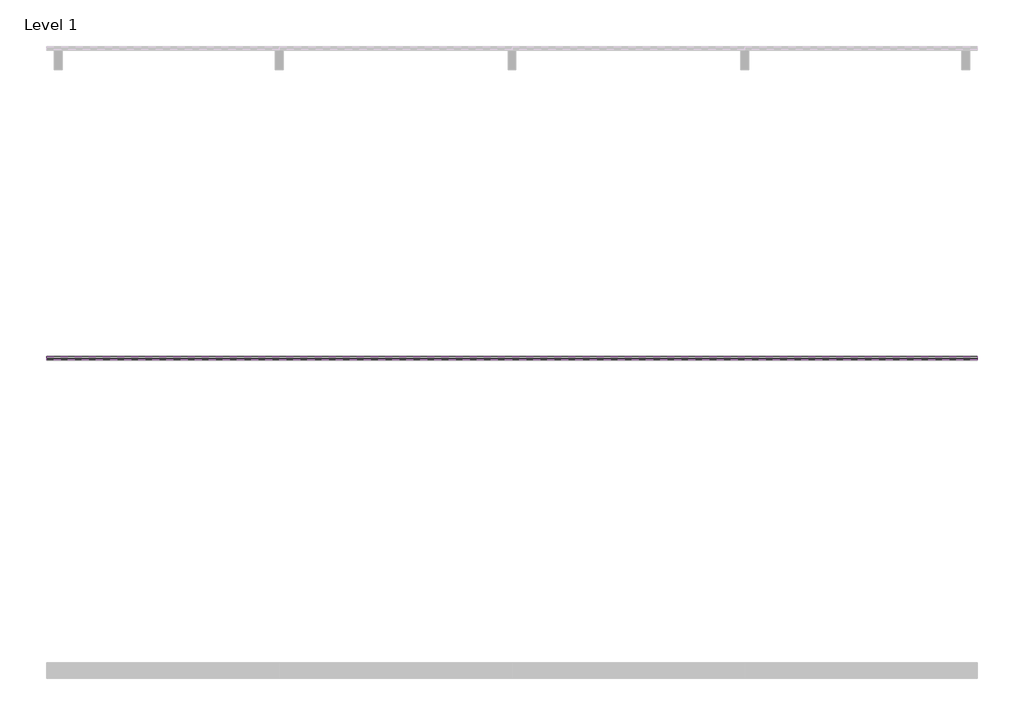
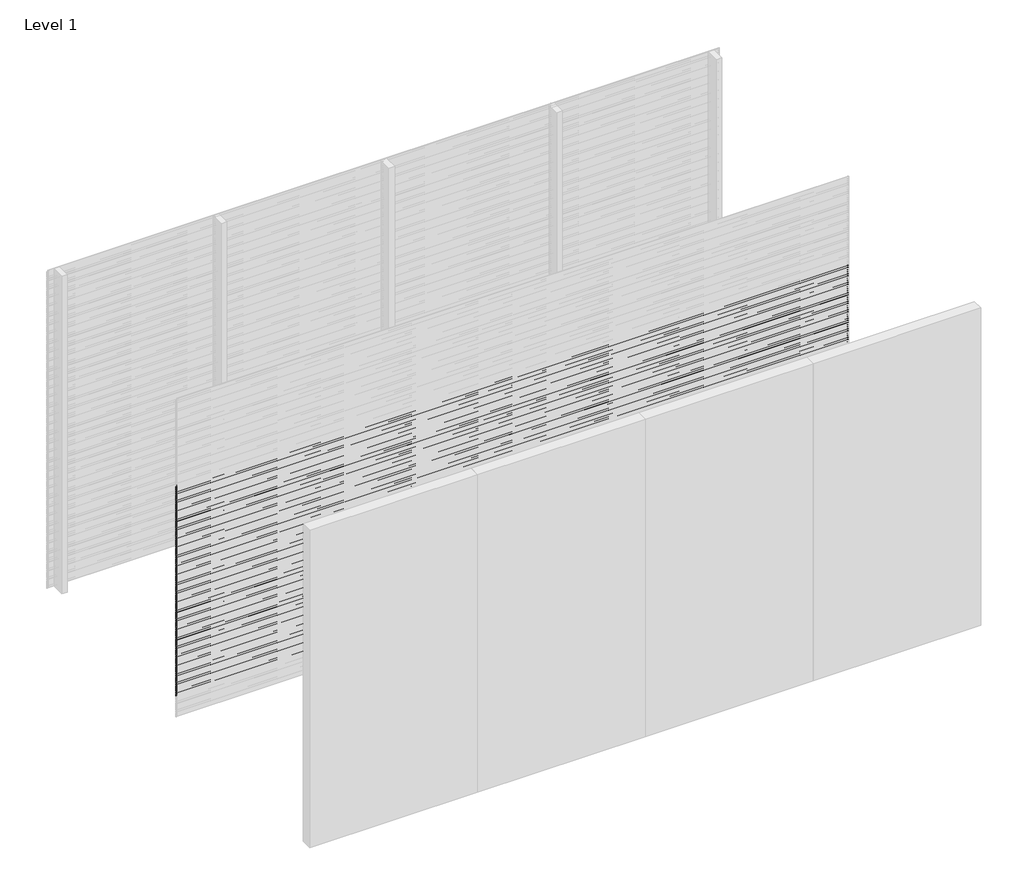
# One storey, part 2 of 31: 99 proxies.
"""IFC4 building model written with IfcOpenShell, lengths in millimetres."""

from ifc_helpers import new_model, si_unit, frame, origin, place, context, project, spatial, polyline, outline, extrude, element, save

model = new_model("IFC4")

# Units and contexts
model_context = context("Model", 3, world=origin())
ifc_project = project(units=[si_unit("LENGTHUNIT", "METRE", prefix="MILLI")], contexts=[model_context])

# Site, building, storey
site = spatial("IfcSite", under=ifc_project)
building = spatial("IfcBuilding", under=site)
storey = spatial("IfcBuildingStorey", under=building, Name="Level 1", Elevation=0.0)

# Proxies
placement = place(None, origin())
element("IfcBuildingElementProxy", 1, Name="Wall Sweeps", at=placement, inside=storey, context=model_context, shape_type="SweptSolid", body=[
    extrude(outline(polyline([(-19995.0, 2180.0), (-19995.0, 2168.942893), (-19976.0, 2153.0), (-19976.0, 2140.0), (-19997.0, 2157.6210923), (-19997.0, 2180.0), (-19995.0, 2180.0)])), frame((0.0, 0.0, 0.0), z_axis=(1.0, 0.0, 0.0), x_axis=(0.0, 1.0, 0.0)), (0.0, 0.0, 1.0), 6000.0),
])
element("IfcBuildingElementProxy", 2, Name="Wall Sweeps", at=placement, inside=storey, context=model_context, shape_type="SweptSolid", body=[
    extrude(outline(polyline([(-19995.0, 2160.0), (-19995.0, 2148.942893), (-19976.0, 2133.0), (-19976.0, 2120.0), (-19997.0, 2137.6210923), (-19997.0, 2160.0), (-19995.0, 2160.0)])), frame((0.0, 0.0, 0.0), z_axis=(1.0, 0.0, 0.0), x_axis=(0.0, 1.0, 0.0)), (0.0, 0.0, 1.0), 6000.0),
])
element("IfcBuildingElementProxy", 3, Name="Wall Sweeps", at=placement, inside=storey, context=model_context, shape_type="SweptSolid", body=[
    extrude(outline(polyline([(-19995.0, 2140.0), (-19995.0, 2128.942893), (-19976.0, 2113.0), (-19976.0, 2100.0), (-19997.0, 2117.6210923), (-19997.0, 2140.0), (-19995.0, 2140.0)])), frame((0.0, 0.0, 0.0), z_axis=(1.0, 0.0, 0.0), x_axis=(0.0, 1.0, 0.0)), (0.0, 0.0, 1.0), 6000.0),
])
element("IfcBuildingElementProxy", 4, Name="Wall Sweeps", at=placement, inside=storey, context=model_context, shape_type="SweptSolid", body=[
    extrude(outline(polyline([(-19995.0, 2120.0), (-19995.0, 2108.942893), (-19976.0, 2093.0), (-19976.0, 2080.0), (-19997.0, 2097.6210923), (-19997.0, 2120.0), (-19995.0, 2120.0)])), frame((0.0, 0.0, 0.0), z_axis=(1.0, 0.0, 0.0), x_axis=(0.0, 1.0, 0.0)), (0.0, 0.0, 1.0), 6000.0),
])
element("IfcBuildingElementProxy", 5, Name="Wall Sweeps", at=placement, inside=storey, context=model_context, shape_type="SweptSolid", body=[
    extrude(outline(polyline([(-19995.0, 2100.0), (-19995.0, 2088.942893), (-19976.0, 2073.0), (-19976.0, 2060.0), (-19997.0, 2077.6210923), (-19997.0, 2100.0), (-19995.0, 2100.0)])), frame((0.0, 0.0, 0.0), z_axis=(1.0, 0.0, 0.0), x_axis=(0.0, 1.0, 0.0)), (0.0, 0.0, 1.0), 6000.0),
])
element("IfcBuildingElementProxy", 6, Name="Wall Sweeps", at=placement, inside=storey, context=model_context, shape_type="SweptSolid", body=[
    extrude(outline(polyline([(-19995.0, 2080.0), (-19995.0, 2068.942893), (-19976.0, 2053.0), (-19976.0, 2040.0), (-19997.0, 2057.6210923), (-19997.0, 2080.0), (-19995.0, 2080.0)])), frame((0.0, 0.0, 0.0), z_axis=(1.0, 0.0, 0.0), x_axis=(0.0, 1.0, 0.0)), (0.0, 0.0, 1.0), 6000.0),
])
element("IfcBuildingElementProxy", 7, Name="Wall Sweeps", at=placement, inside=storey, context=model_context, shape_type="SweptSolid", body=[
    extrude(outline(polyline([(-19995.0, 2060.0), (-19995.0, 2048.942893), (-19976.0, 2033.0), (-19976.0, 2020.0), (-19997.0, 2037.6210923), (-19997.0, 2060.0), (-19995.0, 2060.0)])), frame((0.0, 0.0, 0.0), z_axis=(1.0, 0.0, 0.0), x_axis=(0.0, 1.0, 0.0)), (0.0, 0.0, 1.0), 6000.0),
])
element("IfcBuildingElementProxy", 8, Name="Wall Sweeps", at=placement, inside=storey, context=model_context, shape_type="SweptSolid", body=[
    extrude(outline(polyline([(-19995.0, 2040.0), (-19995.0, 2028.942893), (-19976.0, 2013.0), (-19976.0, 2000.0), (-19997.0, 2017.6210923), (-19997.0, 2040.0), (-19995.0, 2040.0)])), frame((0.0, 0.0, 0.0), z_axis=(1.0, 0.0, 0.0), x_axis=(0.0, 1.0, 0.0)), (0.0, 0.0, 1.0), 6000.0),
])
element("IfcBuildingElementProxy", 9, Name="Wall Sweeps", at=placement, inside=storey, context=model_context, shape_type="SweptSolid", body=[
    extrude(outline(polyline([(-19995.0, 2020.0), (-19995.0, 2008.942893), (-19976.0, 1993.0), (-19976.0, 1980.0), (-19997.0, 1997.6210923), (-19997.0, 2020.0), (-19995.0, 2020.0)])), frame((0.0, 0.0, 0.0), z_axis=(1.0, 0.0, 0.0), x_axis=(0.0, 1.0, 0.0)), (0.0, 0.0, 1.0), 6000.0),
])
element("IfcBuildingElementProxy", 10, Name="Wall Sweeps", at=placement, inside=storey, context=model_context, shape_type="SweptSolid", body=[
    extrude(outline(polyline([(-19995.0, 2000.0), (-19995.0, 1988.942893), (-19976.0, 1973.0), (-19976.0, 1960.0), (-19997.0, 1977.6210923), (-19997.0, 2000.0), (-19995.0, 2000.0)])), frame((0.0, 0.0, 0.0), z_axis=(1.0, 0.0, 0.0), x_axis=(0.0, 1.0, 0.0)), (0.0, 0.0, 1.0), 6000.0),
])
element("IfcBuildingElementProxy", 11, Name="Wall Sweeps", at=placement, inside=storey, context=model_context, shape_type="SweptSolid", body=[
    extrude(outline(polyline([(-19995.0, 1980.0), (-19995.0, 1968.942893), (-19976.0, 1953.0), (-19976.0, 1940.0), (-19997.0, 1957.6210923), (-19997.0, 1980.0), (-19995.0, 1980.0)])), frame((0.0, 0.0, 0.0), z_axis=(1.0, 0.0, 0.0), x_axis=(0.0, 1.0, 0.0)), (0.0, 0.0, 1.0), 6000.0),
])
element("IfcBuildingElementProxy", 12, Name="Wall Sweeps", at=placement, inside=storey, context=model_context, shape_type="SweptSolid", body=[
    extrude(outline(polyline([(-19995.0, 1960.0), (-19995.0, 1948.942893), (-19976.0, 1933.0), (-19976.0, 1920.0), (-19997.0, 1937.6210923), (-19997.0, 1960.0), (-19995.0, 1960.0)])), frame((0.0, 0.0, 0.0), z_axis=(1.0, 0.0, 0.0), x_axis=(0.0, 1.0, 0.0)), (0.0, 0.0, 1.0), 6000.0),
])
element("IfcBuildingElementProxy", 13, Name="Wall Sweeps", at=placement, inside=storey, context=model_context, shape_type="SweptSolid", body=[
    extrude(outline(polyline([(-19995.0, 1940.0), (-19995.0, 1928.942893), (-19976.0, 1913.0), (-19976.0, 1900.0), (-19997.0, 1917.6210923), (-19997.0, 1940.0), (-19995.0, 1940.0)])), frame((0.0, 0.0, 0.0), z_axis=(1.0, 0.0, 0.0), x_axis=(0.0, 1.0, 0.0)), (0.0, 0.0, 1.0), 6000.0),
])
element("IfcBuildingElementProxy", 14, Name="Wall Sweeps", at=placement, inside=storey, context=model_context, shape_type="SweptSolid", body=[
    extrude(outline(polyline([(-19995.0, 1920.0), (-19995.0, 1908.942893), (-19976.0, 1893.0), (-19976.0, 1880.0), (-19997.0, 1897.6210923), (-19997.0, 1920.0), (-19995.0, 1920.0)])), frame((0.0, 0.0, 0.0), z_axis=(1.0, 0.0, 0.0), x_axis=(0.0, 1.0, 0.0)), (0.0, 0.0, 1.0), 6000.0),
])
element("IfcBuildingElementProxy", 15, Name="Wall Sweeps", at=placement, inside=storey, context=model_context, shape_type="SweptSolid", body=[
    extrude(outline(polyline([(-19995.0, 1900.0), (-19995.0, 1888.942893), (-19976.0, 1873.0), (-19976.0, 1860.0), (-19997.0, 1877.6210923), (-19997.0, 1900.0), (-19995.0, 1900.0)])), frame((0.0, 0.0, 0.0), z_axis=(1.0, 0.0, 0.0), x_axis=(0.0, 1.0, 0.0)), (0.0, 0.0, 1.0), 6000.0),
])
element("IfcBuildingElementProxy", 16, Name="Wall Sweeps", at=placement, inside=storey, context=model_context, shape_type="SweptSolid", body=[
    extrude(outline(polyline([(-19995.0, 1880.0), (-19995.0, 1868.942893), (-19976.0, 1853.0), (-19976.0, 1840.0), (-19997.0, 1857.6210923), (-19997.0, 1880.0), (-19995.0, 1880.0)])), frame((0.0, 0.0, 0.0), z_axis=(1.0, 0.0, 0.0), x_axis=(0.0, 1.0, 0.0)), (0.0, 0.0, 1.0), 6000.0),
])
element("IfcBuildingElementProxy", 17, Name="Wall Sweeps", at=placement, inside=storey, context=model_context, shape_type="SweptSolid", body=[
    extrude(outline(polyline([(-19995.0, 1860.0), (-19995.0, 1848.942893), (-19976.0, 1833.0), (-19976.0, 1820.0), (-19997.0, 1837.6210923), (-19997.0, 1860.0), (-19995.0, 1860.0)])), frame((0.0, 0.0, 0.0), z_axis=(1.0, 0.0, 0.0), x_axis=(0.0, 1.0, 0.0)), (0.0, 0.0, 1.0), 6000.0),
])
element("IfcBuildingElementProxy", 18, Name="Wall Sweeps", at=placement, inside=storey, context=model_context, shape_type="SweptSolid", body=[
    extrude(outline(polyline([(-19995.0, 1840.0), (-19995.0, 1828.942893), (-19976.0, 1813.0), (-19976.0, 1800.0), (-19997.0, 1817.6210923), (-19997.0, 1840.0), (-19995.0, 1840.0)])), frame((0.0, 0.0, 0.0), z_axis=(1.0, 0.0, 0.0), x_axis=(0.0, 1.0, 0.0)), (0.0, 0.0, 1.0), 6000.0),
])
element("IfcBuildingElementProxy", 19, Name="Wall Sweeps", at=placement, inside=storey, context=model_context, shape_type="SweptSolid", body=[
    extrude(outline(polyline([(-19995.0, 1820.0), (-19995.0, 1808.942893), (-19976.0, 1793.0), (-19976.0, 1780.0), (-19997.0, 1797.6210923), (-19997.0, 1820.0), (-19995.0, 1820.0)])), frame((0.0, 0.0, 0.0), z_axis=(1.0, 0.0, 0.0), x_axis=(0.0, 1.0, 0.0)), (0.0, 0.0, 1.0), 6000.0),
])
element("IfcBuildingElementProxy", 20, Name="Wall Sweeps", at=placement, inside=storey, context=model_context, shape_type="SweptSolid", body=[
    extrude(outline(polyline([(-19995.0, 1800.0), (-19995.0, 1788.942893), (-19976.0, 1773.0), (-19976.0, 1760.0), (-19997.0, 1777.6210923), (-19997.0, 1800.0), (-19995.0, 1800.0)])), frame((0.0, 0.0, 0.0), z_axis=(1.0, 0.0, 0.0), x_axis=(0.0, 1.0, 0.0)), (0.0, 0.0, 1.0), 6000.0),
])
element("IfcBuildingElementProxy", 21, Name="Wall Sweeps", at=placement, inside=storey, context=model_context, shape_type="SweptSolid", body=[
    extrude(outline(polyline([(-19995.0, 1780.0), (-19995.0, 1768.942893), (-19976.0, 1753.0), (-19976.0, 1740.0), (-19997.0, 1757.6210923), (-19997.0, 1780.0), (-19995.0, 1780.0)])), frame((0.0, 0.0, 0.0), z_axis=(1.0, 0.0, 0.0), x_axis=(0.0, 1.0, 0.0)), (0.0, 0.0, 1.0), 6000.0),
])
element("IfcBuildingElementProxy", 22, Name="Wall Sweeps", at=placement, inside=storey, context=model_context, shape_type="SweptSolid", body=[
    extrude(outline(polyline([(-19995.0, 1760.0), (-19995.0, 1748.942893), (-19976.0, 1733.0), (-19976.0, 1720.0), (-19997.0, 1737.6210923), (-19997.0, 1760.0), (-19995.0, 1760.0)])), frame((0.0, 0.0, 0.0), z_axis=(1.0, 0.0, 0.0), x_axis=(0.0, 1.0, 0.0)), (0.0, 0.0, 1.0), 6000.0),
])
element("IfcBuildingElementProxy", 23, Name="Wall Sweeps", at=placement, inside=storey, context=model_context, shape_type="SweptSolid", body=[
    extrude(outline(polyline([(-19995.0, 1740.0), (-19995.0, 1728.942893), (-19976.0, 1713.0), (-19976.0, 1700.0), (-19997.0, 1717.6210923), (-19997.0, 1740.0), (-19995.0, 1740.0)])), frame((0.0, 0.0, 0.0), z_axis=(1.0, 0.0, 0.0), x_axis=(0.0, 1.0, 0.0)), (0.0, 0.0, 1.0), 6000.0),
])
element("IfcBuildingElementProxy", 24, Name="Wall Sweeps", at=placement, inside=storey, context=model_context, shape_type="SweptSolid", body=[
    extrude(outline(polyline([(-19995.0, 1720.0), (-19995.0, 1708.942893), (-19976.0, 1693.0), (-19976.0, 1680.0), (-19997.0, 1697.6210923), (-19997.0, 1720.0), (-19995.0, 1720.0)])), frame((0.0, 0.0, 0.0), z_axis=(1.0, 0.0, 0.0), x_axis=(0.0, 1.0, 0.0)), (0.0, 0.0, 1.0), 6000.0),
])
element("IfcBuildingElementProxy", 25, Name="Wall Sweeps", at=placement, inside=storey, context=model_context, shape_type="SweptSolid", body=[
    extrude(outline(polyline([(-19995.0, 1700.0), (-19995.0, 1688.942893), (-19976.0, 1673.0), (-19976.0, 1660.0), (-19997.0, 1677.6210923), (-19997.0, 1700.0), (-19995.0, 1700.0)])), frame((0.0, 0.0, 0.0), z_axis=(1.0, 0.0, 0.0), x_axis=(0.0, 1.0, 0.0)), (0.0, 0.0, 1.0), 6000.0),
])
element("IfcBuildingElementProxy", 26, Name="Wall Sweeps", at=placement, inside=storey, context=model_context, shape_type="SweptSolid", body=[
    extrude(outline(polyline([(-19995.0, 1680.0), (-19995.0, 1668.942893), (-19976.0, 1653.0), (-19976.0, 1640.0), (-19997.0, 1657.6210923), (-19997.0, 1680.0), (-19995.0, 1680.0)])), frame((0.0, 0.0, 0.0), z_axis=(1.0, 0.0, 0.0), x_axis=(0.0, 1.0, 0.0)), (0.0, 0.0, 1.0), 6000.0),
])
element("IfcBuildingElementProxy", 27, Name="Wall Sweeps", at=placement, inside=storey, context=model_context, shape_type="SweptSolid", body=[
    extrude(outline(polyline([(-19995.0, 1660.0), (-19995.0, 1648.942893), (-19976.0, 1633.0), (-19976.0, 1620.0), (-19997.0, 1637.6210923), (-19997.0, 1660.0), (-19995.0, 1660.0)])), frame((0.0, 0.0, 0.0), z_axis=(1.0, 0.0, 0.0), x_axis=(0.0, 1.0, 0.0)), (0.0, 0.0, 1.0), 6000.0),
])
element("IfcBuildingElementProxy", 28, Name="Wall Sweeps", at=placement, inside=storey, context=model_context, shape_type="SweptSolid", body=[
    extrude(outline(polyline([(-19995.0, 1640.0), (-19995.0, 1628.942893), (-19976.0, 1613.0), (-19976.0, 1600.0), (-19997.0, 1617.6210923), (-19997.0, 1640.0), (-19995.0, 1640.0)])), frame((0.0, 0.0, 0.0), z_axis=(1.0, 0.0, 0.0), x_axis=(0.0, 1.0, 0.0)), (0.0, 0.0, 1.0), 6000.0),
])
element("IfcBuildingElementProxy", 29, Name="Wall Sweeps", at=placement, inside=storey, context=model_context, shape_type="SweptSolid", body=[
    extrude(outline(polyline([(-19995.0, 1620.0), (-19995.0, 1608.942893), (-19976.0, 1593.0), (-19976.0, 1580.0), (-19997.0, 1597.6210923), (-19997.0, 1620.0), (-19995.0, 1620.0)])), frame((0.0, 0.0, 0.0), z_axis=(1.0, 0.0, 0.0), x_axis=(0.0, 1.0, 0.0)), (0.0, 0.0, 1.0), 6000.0),
])
element("IfcBuildingElementProxy", 30, Name="Wall Sweeps", at=placement, inside=storey, context=model_context, shape_type="SweptSolid", body=[
    extrude(outline(polyline([(-19995.0, 1600.0), (-19995.0, 1588.942893), (-19976.0, 1573.0), (-19976.0, 1560.0), (-19997.0, 1577.6210923), (-19997.0, 1600.0), (-19995.0, 1600.0)])), frame((0.0, 0.0, 0.0), z_axis=(1.0, 0.0, 0.0), x_axis=(0.0, 1.0, 0.0)), (0.0, 0.0, 1.0), 6000.0),
])
element("IfcBuildingElementProxy", 31, Name="Wall Sweeps", at=placement, inside=storey, context=model_context, shape_type="SweptSolid", body=[
    extrude(outline(polyline([(-19995.0, 1580.0), (-19995.0, 1568.942893), (-19976.0, 1553.0), (-19976.0, 1540.0), (-19997.0, 1557.6210923), (-19997.0, 1580.0), (-19995.0, 1580.0)])), frame((0.0, 0.0, 0.0), z_axis=(1.0, 0.0, 0.0), x_axis=(0.0, 1.0, 0.0)), (0.0, 0.0, 1.0), 6000.0),
])
element("IfcBuildingElementProxy", 32, Name="Wall Sweeps", at=placement, inside=storey, context=model_context, shape_type="SweptSolid", body=[
    extrude(outline(polyline([(-19995.0, 1560.0), (-19995.0, 1548.942893), (-19976.0, 1533.0), (-19976.0, 1520.0), (-19997.0, 1537.6210923), (-19997.0, 1560.0), (-19995.0, 1560.0)])), frame((0.0, 0.0, 0.0), z_axis=(1.0, 0.0, 0.0), x_axis=(0.0, 1.0, 0.0)), (0.0, 0.0, 1.0), 6000.0),
])
element("IfcBuildingElementProxy", 33, Name="Wall Sweeps", at=placement, inside=storey, context=model_context, shape_type="SweptSolid", body=[
    extrude(outline(polyline([(-19995.0, 1540.0), (-19995.0, 1528.942893), (-19976.0, 1513.0), (-19976.0, 1500.0), (-19997.0, 1517.6210923), (-19997.0, 1540.0), (-19995.0, 1540.0)])), frame((0.0, 0.0, 0.0), z_axis=(1.0, 0.0, 0.0), x_axis=(0.0, 1.0, 0.0)), (0.0, 0.0, 1.0), 6000.0),
])
element("IfcBuildingElementProxy", 34, Name="Wall Sweeps", at=placement, inside=storey, context=model_context, shape_type="SweptSolid", body=[
    extrude(outline(polyline([(-19995.0, 1520.0), (-19995.0, 1508.942893), (-19976.0, 1493.0), (-19976.0, 1480.0), (-19997.0, 1497.6210923), (-19997.0, 1520.0), (-19995.0, 1520.0)])), frame((0.0, 0.0, 0.0), z_axis=(1.0, 0.0, 0.0), x_axis=(0.0, 1.0, 0.0)), (0.0, 0.0, 1.0), 6000.0),
])
element("IfcBuildingElementProxy", 35, Name="Wall Sweeps", at=placement, inside=storey, context=model_context, shape_type="SweptSolid", body=[
    extrude(outline(polyline([(-19995.0, 1500.0), (-19995.0, 1488.942893), (-19976.0, 1473.0), (-19976.0, 1460.0), (-19997.0, 1477.6210923), (-19997.0, 1500.0), (-19995.0, 1500.0)])), frame((0.0, 0.0, 0.0), z_axis=(1.0, 0.0, 0.0), x_axis=(0.0, 1.0, 0.0)), (0.0, 0.0, 1.0), 6000.0),
])
element("IfcBuildingElementProxy", 36, Name="Wall Sweeps", at=placement, inside=storey, context=model_context, shape_type="SweptSolid", body=[
    extrude(outline(polyline([(-19995.0, 1480.0), (-19995.0, 1468.942893), (-19976.0, 1453.0), (-19976.0, 1440.0), (-19997.0, 1457.6210923), (-19997.0, 1480.0), (-19995.0, 1480.0)])), frame((0.0, 0.0, 0.0), z_axis=(1.0, 0.0, 0.0), x_axis=(0.0, 1.0, 0.0)), (0.0, 0.0, 1.0), 6000.0),
])
element("IfcBuildingElementProxy", 37, Name="Wall Sweeps", at=placement, inside=storey, context=model_context, shape_type="SweptSolid", body=[
    extrude(outline(polyline([(-19995.0, 1460.0), (-19995.0, 1448.942893), (-19976.0, 1433.0), (-19976.0, 1420.0), (-19997.0, 1437.6210923), (-19997.0, 1460.0), (-19995.0, 1460.0)])), frame((0.0, 0.0, 0.0), z_axis=(1.0, 0.0, 0.0), x_axis=(0.0, 1.0, 0.0)), (0.0, 0.0, 1.0), 6000.0),
])
element("IfcBuildingElementProxy", 38, Name="Wall Sweeps", at=placement, inside=storey, context=model_context, shape_type="SweptSolid", body=[
    extrude(outline(polyline([(-19995.0, 1440.0), (-19995.0, 1428.942893), (-19976.0, 1413.0), (-19976.0, 1400.0), (-19997.0, 1417.6210923), (-19997.0, 1440.0), (-19995.0, 1440.0)])), frame((0.0, 0.0, 0.0), z_axis=(1.0, 0.0, 0.0), x_axis=(0.0, 1.0, 0.0)), (0.0, 0.0, 1.0), 6000.0),
])
element("IfcBuildingElementProxy", 39, Name="Wall Sweeps", at=placement, inside=storey, context=model_context, shape_type="SweptSolid", body=[
    extrude(outline(polyline([(-19995.0, 1420.0), (-19995.0, 1408.942893), (-19976.0, 1393.0), (-19976.0, 1380.0), (-19997.0, 1397.6210923), (-19997.0, 1420.0), (-19995.0, 1420.0)])), frame((0.0, 0.0, 0.0), z_axis=(1.0, 0.0, 0.0), x_axis=(0.0, 1.0, 0.0)), (0.0, 0.0, 1.0), 6000.0),
])
element("IfcBuildingElementProxy", 40, Name="Wall Sweeps", at=placement, inside=storey, context=model_context, shape_type="SweptSolid", body=[
    extrude(outline(polyline([(-19995.0, 1400.0), (-19995.0, 1388.942893), (-19976.0, 1373.0), (-19976.0, 1360.0), (-19997.0, 1377.6210923), (-19997.0, 1400.0), (-19995.0, 1400.0)])), frame((0.0, 0.0, 0.0), z_axis=(1.0, 0.0, 0.0), x_axis=(0.0, 1.0, 0.0)), (0.0, 0.0, 1.0), 6000.0),
])
element("IfcBuildingElementProxy", 41, Name="Wall Sweeps", at=placement, inside=storey, context=model_context, shape_type="SweptSolid", body=[
    extrude(outline(polyline([(-19995.0, 1380.0), (-19995.0, 1368.942893), (-19976.0, 1353.0), (-19976.0, 1340.0), (-19997.0, 1357.6210923), (-19997.0, 1380.0), (-19995.0, 1380.0)])), frame((0.0, 0.0, 0.0), z_axis=(1.0, 0.0, 0.0), x_axis=(0.0, 1.0, 0.0)), (0.0, 0.0, 1.0), 6000.0),
])
element("IfcBuildingElementProxy", 42, Name="Wall Sweeps", at=placement, inside=storey, context=model_context, shape_type="SweptSolid", body=[
    extrude(outline(polyline([(-19995.0, 1360.0), (-19995.0, 1348.942893), (-19976.0, 1333.0), (-19976.0, 1320.0), (-19997.0, 1337.6210923), (-19997.0, 1360.0), (-19995.0, 1360.0)])), frame((0.0, 0.0, 0.0), z_axis=(1.0, 0.0, 0.0), x_axis=(0.0, 1.0, 0.0)), (0.0, 0.0, 1.0), 6000.0),
])
element("IfcBuildingElementProxy", 43, Name="Wall Sweeps", at=placement, inside=storey, context=model_context, shape_type="SweptSolid", body=[
    extrude(outline(polyline([(-19995.0, 1340.0), (-19995.0, 1328.942893), (-19976.0, 1313.0), (-19976.0, 1300.0), (-19997.0, 1317.6210923), (-19997.0, 1340.0), (-19995.0, 1340.0)])), frame((0.0, 0.0, 0.0), z_axis=(1.0, 0.0, 0.0), x_axis=(0.0, 1.0, 0.0)), (0.0, 0.0, 1.0), 6000.0),
])
element("IfcBuildingElementProxy", 44, Name="Wall Sweeps", at=placement, inside=storey, context=model_context, shape_type="SweptSolid", body=[
    extrude(outline(polyline([(-19995.0, 1320.0), (-19995.0, 1308.942893), (-19976.0, 1293.0), (-19976.0, 1280.0), (-19997.0, 1297.6210923), (-19997.0, 1320.0), (-19995.0, 1320.0)])), frame((0.0, 0.0, 0.0), z_axis=(1.0, 0.0, 0.0), x_axis=(0.0, 1.0, 0.0)), (0.0, 0.0, 1.0), 6000.0),
])
element("IfcBuildingElementProxy", 45, Name="Wall Sweeps", at=placement, inside=storey, context=model_context, shape_type="SweptSolid", body=[
    extrude(outline(polyline([(-19995.0, 1300.0), (-19995.0, 1288.942893), (-19976.0, 1273.0), (-19976.0, 1260.0), (-19997.0, 1277.6210923), (-19997.0, 1300.0), (-19995.0, 1300.0)])), frame((0.0, 0.0, 0.0), z_axis=(1.0, 0.0, 0.0), x_axis=(0.0, 1.0, 0.0)), (0.0, 0.0, 1.0), 6000.0),
])
element("IfcBuildingElementProxy", 46, Name="Wall Sweeps", at=placement, inside=storey, context=model_context, shape_type="SweptSolid", body=[
    extrude(outline(polyline([(-19995.0, 1280.0), (-19995.0, 1268.942893), (-19976.0, 1253.0), (-19976.0, 1240.0), (-19997.0, 1257.6210923), (-19997.0, 1280.0), (-19995.0, 1280.0)])), frame((0.0, 0.0, 0.0), z_axis=(1.0, 0.0, 0.0), x_axis=(0.0, 1.0, 0.0)), (0.0, 0.0, 1.0), 6000.0),
])
element("IfcBuildingElementProxy", 47, Name="Wall Sweeps", at=placement, inside=storey, context=model_context, shape_type="SweptSolid", body=[
    extrude(outline(polyline([(-19995.0, 1260.0), (-19995.0, 1248.942893), (-19976.0, 1233.0), (-19976.0, 1220.0), (-19997.0, 1237.6210923), (-19997.0, 1260.0), (-19995.0, 1260.0)])), frame((0.0, 0.0, 0.0), z_axis=(1.0, 0.0, 0.0), x_axis=(0.0, 1.0, 0.0)), (0.0, 0.0, 1.0), 6000.0),
])
element("IfcBuildingElementProxy", 48, Name="Wall Sweeps", at=placement, inside=storey, context=model_context, shape_type="SweptSolid", body=[
    extrude(outline(polyline([(-19995.0, 1240.0), (-19995.0, 1228.942893), (-19976.0, 1213.0), (-19976.0, 1200.0), (-19997.0, 1217.6210923), (-19997.0, 1240.0), (-19995.0, 1240.0)])), frame((0.0, 0.0, 0.0), z_axis=(1.0, 0.0, 0.0), x_axis=(0.0, 1.0, 0.0)), (0.0, 0.0, 1.0), 6000.0),
])
element("IfcBuildingElementProxy", 49, Name="Wall Sweeps", at=placement, inside=storey, context=model_context, shape_type="SweptSolid", body=[
    extrude(outline(polyline([(-19995.0, 1220.0), (-19995.0, 1208.942893), (-19976.0, 1193.0), (-19976.0, 1180.0), (-19997.0, 1197.6210923), (-19997.0, 1220.0), (-19995.0, 1220.0)])), frame((0.0, 0.0, 0.0), z_axis=(1.0, 0.0, 0.0), x_axis=(0.0, 1.0, 0.0)), (0.0, 0.0, 1.0), 6000.0),
])
element("IfcBuildingElementProxy", 50, Name="Wall Sweeps", at=placement, inside=storey, context=model_context, shape_type="SweptSolid", body=[
    extrude(outline(polyline([(-19995.0, 1200.0), (-19995.0, 1188.942893), (-19976.0, 1173.0), (-19976.0, 1160.0), (-19997.0, 1177.6210923), (-19997.0, 1200.0), (-19995.0, 1200.0)])), frame((0.0, 0.0, 0.0), z_axis=(1.0, 0.0, 0.0), x_axis=(0.0, 1.0, 0.0)), (0.0, 0.0, 1.0), 6000.0),
])
element("IfcBuildingElementProxy", 51, Name="Wall Sweeps", at=placement, inside=storey, context=model_context, shape_type="SweptSolid", body=[
    extrude(outline(polyline([(-19995.0, 1180.0), (-19995.0, 1168.942893), (-19976.0, 1153.0), (-19976.0, 1140.0), (-19997.0, 1157.6210923), (-19997.0, 1180.0), (-19995.0, 1180.0)])), frame((0.0, 0.0, 0.0), z_axis=(1.0, 0.0, 0.0), x_axis=(0.0, 1.0, 0.0)), (0.0, 0.0, 1.0), 6000.0),
])
element("IfcBuildingElementProxy", 52, Name="Wall Sweeps", at=placement, inside=storey, context=model_context, shape_type="SweptSolid", body=[
    extrude(outline(polyline([(-19995.0, 1160.0), (-19995.0, 1148.942893), (-19976.0, 1133.0), (-19976.0, 1120.0), (-19997.0, 1137.6210923), (-19997.0, 1160.0), (-19995.0, 1160.0)])), frame((0.0, 0.0, 0.0), z_axis=(1.0, 0.0, 0.0), x_axis=(0.0, 1.0, 0.0)), (0.0, 0.0, 1.0), 6000.0),
])
element("IfcBuildingElementProxy", 53, Name="Wall Sweeps", at=placement, inside=storey, context=model_context, shape_type="SweptSolid", body=[
    extrude(outline(polyline([(-19995.0, 1140.0), (-19995.0, 1128.942893), (-19976.0, 1113.0), (-19976.0, 1100.0), (-19997.0, 1117.6210923), (-19997.0, 1140.0), (-19995.0, 1140.0)])), frame((0.0, 0.0, 0.0), z_axis=(1.0, 0.0, 0.0), x_axis=(0.0, 1.0, 0.0)), (0.0, 0.0, 1.0), 6000.0),
])
element("IfcBuildingElementProxy", 54, Name="Wall Sweeps", at=placement, inside=storey, context=model_context, shape_type="SweptSolid", body=[
    extrude(outline(polyline([(-19995.0, 1120.0), (-19995.0, 1108.942893), (-19976.0, 1093.0), (-19976.0, 1080.0), (-19997.0, 1097.6210923), (-19997.0, 1120.0), (-19995.0, 1120.0)])), frame((0.0, 0.0, 0.0), z_axis=(1.0, 0.0, 0.0), x_axis=(0.0, 1.0, 0.0)), (0.0, 0.0, 1.0), 6000.0),
])
element("IfcBuildingElementProxy", 55, Name="Wall Sweeps", at=placement, inside=storey, context=model_context, shape_type="SweptSolid", body=[
    extrude(outline(polyline([(-19995.0, 1100.0), (-19995.0, 1088.942893), (-19976.0, 1073.0), (-19976.0, 1060.0), (-19997.0, 1077.6210923), (-19997.0, 1100.0), (-19995.0, 1100.0)])), frame((0.0, 0.0, 0.0), z_axis=(1.0, 0.0, 0.0), x_axis=(0.0, 1.0, 0.0)), (0.0, 0.0, 1.0), 6000.0),
])
element("IfcBuildingElementProxy", 56, Name="Wall Sweeps", at=placement, inside=storey, context=model_context, shape_type="SweptSolid", body=[
    extrude(outline(polyline([(-19995.0, 1080.0), (-19995.0, 1068.942893), (-19976.0, 1053.0), (-19976.0, 1040.0), (-19997.0, 1057.6210923), (-19997.0, 1080.0), (-19995.0, 1080.0)])), frame((0.0, 0.0, 0.0), z_axis=(1.0, 0.0, 0.0), x_axis=(0.0, 1.0, 0.0)), (0.0, 0.0, 1.0), 6000.0),
])
element("IfcBuildingElementProxy", 57, Name="Wall Sweeps", at=placement, inside=storey, context=model_context, shape_type="SweptSolid", body=[
    extrude(outline(polyline([(-19995.0, 1060.0), (-19995.0, 1048.942893), (-19976.0, 1033.0), (-19976.0, 1020.0), (-19997.0, 1037.6210923), (-19997.0, 1060.0), (-19995.0, 1060.0)])), frame((0.0, 0.0, 0.0), z_axis=(1.0, 0.0, 0.0), x_axis=(0.0, 1.0, 0.0)), (0.0, 0.0, 1.0), 6000.0),
])
element("IfcBuildingElementProxy", 58, Name="Wall Sweeps", at=placement, inside=storey, context=model_context, shape_type="SweptSolid", body=[
    extrude(outline(polyline([(-19995.0, 1040.0), (-19995.0, 1028.942893), (-19976.0, 1013.0), (-19976.0, 1000.0), (-19997.0, 1017.6210923), (-19997.0, 1040.0), (-19995.0, 1040.0)])), frame((0.0, 0.0, 0.0), z_axis=(1.0, 0.0, 0.0), x_axis=(0.0, 1.0, 0.0)), (0.0, 0.0, 1.0), 6000.0),
])
element("IfcBuildingElementProxy", 59, Name="Wall Sweeps", at=placement, inside=storey, context=model_context, shape_type="SweptSolid", body=[
    extrude(outline(polyline([(-19995.0, 1020.0), (-19995.0, 1008.942893), (-19976.0, 993.0), (-19976.0, 980.0), (-19997.0, 997.6210923), (-19997.0, 1020.0), (-19995.0, 1020.0)])), frame((0.0, 0.0, 0.0), z_axis=(1.0, 0.0, 0.0), x_axis=(0.0, 1.0, 0.0)), (0.0, 0.0, 1.0), 6000.0),
])
element("IfcBuildingElementProxy", 60, Name="Wall Sweeps", at=placement, inside=storey, context=model_context, shape_type="SweptSolid", body=[
    extrude(outline(polyline([(-19995.0, 1000.0), (-19995.0, 988.942893), (-19976.0, 973.0), (-19976.0, 960.0), (-19997.0, 977.6210923), (-19997.0, 1000.0), (-19995.0, 1000.0)])), frame((0.0, 0.0, 0.0), z_axis=(1.0, 0.0, 0.0), x_axis=(0.0, 1.0, 0.0)), (0.0, 0.0, 1.0), 6000.0),
])
element("IfcBuildingElementProxy", 61, Name="Wall Sweeps", at=placement, inside=storey, context=model_context, shape_type="SweptSolid", body=[
    extrude(outline(polyline([(-19995.0, 980.0), (-19995.0, 968.942893), (-19976.0, 953.0), (-19976.0, 940.0), (-19997.0, 957.6210923), (-19997.0, 980.0), (-19995.0, 980.0)])), frame((0.0, 0.0, 0.0), z_axis=(1.0, 0.0, 0.0), x_axis=(0.0, 1.0, 0.0)), (0.0, 0.0, 1.0), 6000.0),
])
element("IfcBuildingElementProxy", 62, Name="Wall Sweeps", at=placement, inside=storey, context=model_context, shape_type="SweptSolid", body=[
    extrude(outline(polyline([(-19995.0, 960.0), (-19995.0, 948.942893), (-19976.0, 933.0), (-19976.0, 920.0), (-19997.0, 937.6210923), (-19997.0, 960.0), (-19995.0, 960.0)])), frame((0.0, 0.0, 0.0), z_axis=(1.0, 0.0, 0.0), x_axis=(0.0, 1.0, 0.0)), (0.0, 0.0, 1.0), 6000.0),
])
element("IfcBuildingElementProxy", 63, Name="Wall Sweeps", at=placement, inside=storey, context=model_context, shape_type="SweptSolid", body=[
    extrude(outline(polyline([(-19995.0, 940.0), (-19995.0, 928.942893), (-19976.0, 913.0), (-19976.0, 900.0), (-19997.0, 917.6210923), (-19997.0, 940.0), (-19995.0, 940.0)])), frame((0.0, 0.0, 0.0), z_axis=(1.0, 0.0, 0.0), x_axis=(0.0, 1.0, 0.0)), (0.0, 0.0, 1.0), 6000.0),
])
element("IfcBuildingElementProxy", 64, Name="Wall Sweeps", at=placement, inside=storey, context=model_context, shape_type="SweptSolid", body=[
    extrude(outline(polyline([(-19995.0, 920.0), (-19995.0, 908.942893), (-19976.0, 893.0), (-19976.0, 880.0), (-19997.0, 897.6210923), (-19997.0, 920.0), (-19995.0, 920.0)])), frame((0.0, 0.0, 0.0), z_axis=(1.0, 0.0, 0.0), x_axis=(0.0, 1.0, 0.0)), (0.0, 0.0, 1.0), 6000.0),
])
element("IfcBuildingElementProxy", 65, Name="Wall Sweeps", at=placement, inside=storey, context=model_context, shape_type="SweptSolid", body=[
    extrude(outline(polyline([(-19995.0, 900.0), (-19995.0, 888.942893), (-19976.0, 873.0), (-19976.0, 860.0), (-19997.0, 877.6210923), (-19997.0, 900.0), (-19995.0, 900.0)])), frame((0.0, 0.0, 0.0), z_axis=(1.0, 0.0, 0.0), x_axis=(0.0, 1.0, 0.0)), (0.0, 0.0, 1.0), 6000.0),
])
element("IfcBuildingElementProxy", 66, Name="Wall Sweeps", at=placement, inside=storey, context=model_context, shape_type="SweptSolid", body=[
    extrude(outline(polyline([(-19995.0, 880.0), (-19995.0, 868.942893), (-19976.0, 853.0), (-19976.0, 840.0), (-19997.0, 857.6210923), (-19997.0, 880.0), (-19995.0, 880.0)])), frame((0.0, 0.0, 0.0), z_axis=(1.0, 0.0, 0.0), x_axis=(0.0, 1.0, 0.0)), (0.0, 0.0, 1.0), 6000.0),
])
element("IfcBuildingElementProxy", 67, Name="Wall Sweeps", at=placement, inside=storey, context=model_context, shape_type="SweptSolid", body=[
    extrude(outline(polyline([(-19995.0, 860.0), (-19995.0, 848.942893), (-19976.0, 833.0), (-19976.0, 820.0), (-19997.0, 837.6210923), (-19997.0, 860.0), (-19995.0, 860.0)])), frame((0.0, 0.0, 0.0), z_axis=(1.0, 0.0, 0.0), x_axis=(0.0, 1.0, 0.0)), (0.0, 0.0, 1.0), 6000.0),
])
element("IfcBuildingElementProxy", 68, Name="Wall Sweeps", at=placement, inside=storey, context=model_context, shape_type="SweptSolid", body=[
    extrude(outline(polyline([(-19995.0, 840.0), (-19995.0, 828.942893), (-19976.0, 813.0), (-19976.0, 800.0), (-19997.0, 817.6210923), (-19997.0, 840.0), (-19995.0, 840.0)])), frame((0.0, 0.0, 0.0), z_axis=(1.0, 0.0, 0.0), x_axis=(0.0, 1.0, 0.0)), (0.0, 0.0, 1.0), 6000.0),
])
element("IfcBuildingElementProxy", 69, Name="Wall Sweeps", at=placement, inside=storey, context=model_context, shape_type="SweptSolid", body=[
    extrude(outline(polyline([(-19995.0, 820.0), (-19995.0, 808.942893), (-19976.0, 793.0), (-19976.0, 780.0), (-19997.0, 797.6210923), (-19997.0, 820.0), (-19995.0, 820.0)])), frame((0.0, 0.0, 0.0), z_axis=(1.0, 0.0, 0.0), x_axis=(0.0, 1.0, 0.0)), (0.0, 0.0, 1.0), 6000.0),
])
element("IfcBuildingElementProxy", 70, Name="Wall Sweeps", at=placement, inside=storey, context=model_context, shape_type="SweptSolid", body=[
    extrude(outline(polyline([(-19995.0, 800.0), (-19995.0, 788.942893), (-19976.0, 773.0), (-19976.0, 760.0), (-19997.0, 777.6210923), (-19997.0, 800.0), (-19995.0, 800.0)])), frame((0.0, 0.0, 0.0), z_axis=(1.0, 0.0, 0.0), x_axis=(0.0, 1.0, 0.0)), (0.0, 0.0, 1.0), 6000.0),
])
element("IfcBuildingElementProxy", 71, Name="Wall Sweeps", at=placement, inside=storey, context=model_context, shape_type="SweptSolid", body=[
    extrude(outline(polyline([(-19995.0, 780.0), (-19995.0, 768.942893), (-19976.0, 753.0), (-19976.0, 740.0), (-19997.0, 757.6210923), (-19997.0, 780.0), (-19995.0, 780.0)])), frame((0.0, 0.0, 0.0), z_axis=(1.0, 0.0, 0.0), x_axis=(0.0, 1.0, 0.0)), (0.0, 0.0, 1.0), 6000.0),
])
element("IfcBuildingElementProxy", 72, Name="Wall Sweeps", at=placement, inside=storey, context=model_context, shape_type="SweptSolid", body=[
    extrude(outline(polyline([(-19995.0, 760.0), (-19995.0, 748.942893), (-19976.0, 733.0), (-19976.0, 720.0), (-19997.0, 737.6210923), (-19997.0, 760.0), (-19995.0, 760.0)])), frame((0.0, 0.0, 0.0), z_axis=(1.0, 0.0, 0.0), x_axis=(0.0, 1.0, 0.0)), (0.0, 0.0, 1.0), 6000.0),
])
element("IfcBuildingElementProxy", 73, Name="Wall Sweeps", at=placement, inside=storey, context=model_context, shape_type="SweptSolid", body=[
    extrude(outline(polyline([(-19995.0, 740.0), (-19995.0, 728.942893), (-19976.0, 713.0), (-19976.0, 700.0), (-19997.0, 717.6210923), (-19997.0, 740.0), (-19995.0, 740.0)])), frame((0.0, 0.0, 0.0), z_axis=(1.0, 0.0, 0.0), x_axis=(0.0, 1.0, 0.0)), (0.0, 0.0, 1.0), 6000.0),
])
element("IfcBuildingElementProxy", 74, Name="Wall Sweeps", at=placement, inside=storey, context=model_context, shape_type="SweptSolid", body=[
    extrude(outline(polyline([(-19995.0, 720.0), (-19995.0, 708.942893), (-19976.0, 693.0), (-19976.0, 680.0), (-19997.0, 697.6210923), (-19997.0, 720.0), (-19995.0, 720.0)])), frame((0.0, 0.0, 0.0), z_axis=(1.0, 0.0, 0.0), x_axis=(0.0, 1.0, 0.0)), (0.0, 0.0, 1.0), 6000.0),
])
element("IfcBuildingElementProxy", 75, Name="Wall Sweeps", at=placement, inside=storey, context=model_context, shape_type="SweptSolid", body=[
    extrude(outline(polyline([(-19995.0, 700.0), (-19995.0, 688.942893), (-19976.0, 673.0), (-19976.0, 660.0), (-19997.0, 677.6210923), (-19997.0, 700.0), (-19995.0, 700.0)])), frame((0.0, 0.0, 0.0), z_axis=(1.0, 0.0, 0.0), x_axis=(0.0, 1.0, 0.0)), (0.0, 0.0, 1.0), 6000.0),
])
element("IfcBuildingElementProxy", 76, Name="Wall Sweeps", at=placement, inside=storey, context=model_context, shape_type="SweptSolid", body=[
    extrude(outline(polyline([(-19995.0, 680.0), (-19995.0, 668.942893), (-19976.0, 653.0), (-19976.0, 640.0), (-19997.0, 657.6210923), (-19997.0, 680.0), (-19995.0, 680.0)])), frame((0.0, 0.0, 0.0), z_axis=(1.0, 0.0, 0.0), x_axis=(0.0, 1.0, 0.0)), (0.0, 0.0, 1.0), 6000.0),
])
element("IfcBuildingElementProxy", 77, Name="Wall Sweeps", at=placement, inside=storey, context=model_context, shape_type="SweptSolid", body=[
    extrude(outline(polyline([(-19995.0, 660.0), (-19995.0, 648.942893), (-19976.0, 633.0), (-19976.0, 620.0), (-19997.0, 637.6210923), (-19997.0, 660.0), (-19995.0, 660.0)])), frame((0.0, 0.0, 0.0), z_axis=(1.0, 0.0, 0.0), x_axis=(0.0, 1.0, 0.0)), (0.0, 0.0, 1.0), 6000.0),
])
element("IfcBuildingElementProxy", 78, Name="Wall Sweeps", at=placement, inside=storey, context=model_context, shape_type="SweptSolid", body=[
    extrude(outline(polyline([(-19995.0, 640.0), (-19995.0, 628.942893), (-19976.0, 613.0), (-19976.0, 600.0), (-19997.0, 617.6210923), (-19997.0, 640.0), (-19995.0, 640.0)])), frame((0.0, 0.0, 0.0), z_axis=(1.0, 0.0, 0.0), x_axis=(0.0, 1.0, 0.0)), (0.0, 0.0, 1.0), 6000.0),
])
element("IfcBuildingElementProxy", 79, Name="Wall Sweeps", at=placement, inside=storey, context=model_context, shape_type="SweptSolid", body=[
    extrude(outline(polyline([(-19995.0, 620.0), (-19995.0, 608.942893), (-19976.0, 593.0), (-19976.0, 580.0), (-19997.0, 597.6210923), (-19997.0, 620.0), (-19995.0, 620.0)])), frame((0.0, 0.0, 0.0), z_axis=(1.0, 0.0, 0.0), x_axis=(0.0, 1.0, 0.0)), (0.0, 0.0, 1.0), 6000.0),
])
element("IfcBuildingElementProxy", 80, Name="Wall Sweeps", at=placement, inside=storey, context=model_context, shape_type="SweptSolid", body=[
    extrude(outline(polyline([(-19995.0, 600.0), (-19995.0, 588.942893), (-19976.0, 573.0), (-19976.0, 560.0), (-19997.0, 577.6210923), (-19997.0, 600.0), (-19995.0, 600.0)])), frame((0.0, 0.0, 0.0), z_axis=(1.0, 0.0, 0.0), x_axis=(0.0, 1.0, 0.0)), (0.0, 0.0, 1.0), 6000.0),
])
element("IfcBuildingElementProxy", 81, Name="Wall Sweeps", at=placement, inside=storey, context=model_context, shape_type="SweptSolid", body=[
    extrude(outline(polyline([(-19995.0, 580.0), (-19995.0, 568.942893), (-19976.0, 553.0), (-19976.0, 540.0), (-19997.0, 557.6210923), (-19997.0, 580.0), (-19995.0, 580.0)])), frame((0.0, 0.0, 0.0), z_axis=(1.0, 0.0, 0.0), x_axis=(0.0, 1.0, 0.0)), (0.0, 0.0, 1.0), 6000.0),
])
element("IfcBuildingElementProxy", 82, Name="Wall Sweeps", at=placement, inside=storey, context=model_context, shape_type="SweptSolid", body=[
    extrude(outline(polyline([(-19995.0, 560.0), (-19995.0, 548.942893), (-19976.0, 533.0), (-19976.0, 520.0), (-19997.0, 537.6210923), (-19997.0, 560.0), (-19995.0, 560.0)])), frame((0.0, 0.0, 0.0), z_axis=(1.0, 0.0, 0.0), x_axis=(0.0, 1.0, 0.0)), (0.0, 0.0, 1.0), 6000.0),
])
element("IfcBuildingElementProxy", 83, Name="Wall Sweeps", at=placement, inside=storey, context=model_context, shape_type="SweptSolid", body=[
    extrude(outline(polyline([(-19995.0, 540.0), (-19995.0, 528.942893), (-19976.0, 513.0), (-19976.0, 500.0), (-19997.0, 517.6210923), (-19997.0, 540.0), (-19995.0, 540.0)])), frame((0.0, 0.0, 0.0), z_axis=(1.0, 0.0, 0.0), x_axis=(0.0, 1.0, 0.0)), (0.0, 0.0, 1.0), 6000.0),
])
element("IfcBuildingElementProxy", 84, Name="Wall Sweeps", at=placement, inside=storey, context=model_context, shape_type="SweptSolid", body=[
    extrude(outline(polyline([(-19995.0, 520.0), (-19995.0, 508.942893), (-19976.0, 493.0), (-19976.0, 480.0), (-19997.0, 497.6210923), (-19997.0, 520.0), (-19995.0, 520.0)])), frame((0.0, 0.0, 0.0), z_axis=(1.0, 0.0, 0.0), x_axis=(0.0, 1.0, 0.0)), (0.0, 0.0, 1.0), 6000.0),
])
element("IfcBuildingElementProxy", 85, Name="Wall Sweeps", at=placement, inside=storey, context=model_context, shape_type="SweptSolid", body=[
    extrude(outline(polyline([(-19995.0, 500.0), (-19995.0, 488.942893), (-19976.0, 473.0), (-19976.0, 460.0), (-19997.0, 477.6210923), (-19997.0, 500.0), (-19995.0, 500.0)])), frame((0.0, 0.0, 0.0), z_axis=(1.0, 0.0, 0.0), x_axis=(0.0, 1.0, 0.0)), (0.0, 0.0, 1.0), 6000.0),
])
element("IfcBuildingElementProxy", 86, Name="Wall Sweeps", at=placement, inside=storey, context=model_context, shape_type="SweptSolid", body=[
    extrude(outline(polyline([(-19995.0, 480.0), (-19995.0, 468.942893), (-19976.0, 453.0), (-19976.0, 440.0), (-19997.0, 457.6210923), (-19997.0, 480.0), (-19995.0, 480.0)])), frame((0.0, 0.0, 0.0), z_axis=(1.0, 0.0, 0.0), x_axis=(0.0, 1.0, 0.0)), (0.0, 0.0, 1.0), 6000.0),
])
element("IfcBuildingElementProxy", 87, Name="Wall Sweeps", at=placement, inside=storey, context=model_context, shape_type="SweptSolid", body=[
    extrude(outline(polyline([(-19995.0, 460.0), (-19995.0, 448.942893), (-19976.0, 433.0), (-19976.0, 420.0), (-19997.0, 437.6210923), (-19997.0, 460.0), (-19995.0, 460.0)])), frame((0.0, 0.0, 0.0), z_axis=(1.0, 0.0, 0.0), x_axis=(0.0, 1.0, 0.0)), (0.0, 0.0, 1.0), 6000.0),
])
element("IfcBuildingElementProxy", 88, Name="Wall Sweeps", at=placement, inside=storey, context=model_context, shape_type="SweptSolid", body=[
    extrude(outline(polyline([(-19995.0, 440.0), (-19995.0, 428.942893), (-19976.0, 413.0), (-19976.0, 400.0), (-19997.0, 417.6210923), (-19997.0, 440.0), (-19995.0, 440.0)])), frame((0.0, 0.0, 0.0), z_axis=(1.0, 0.0, 0.0), x_axis=(0.0, 1.0, 0.0)), (0.0, 0.0, 1.0), 6000.0),
])
element("IfcBuildingElementProxy", 89, Name="Wall Sweeps", at=placement, inside=storey, context=model_context, shape_type="SweptSolid", body=[
    extrude(outline(polyline([(-19995.0, 420.0), (-19995.0, 408.942893), (-19976.0, 393.0), (-19976.0, 380.0), (-19997.0, 397.6210923), (-19997.0, 420.0), (-19995.0, 420.0)])), frame((0.0, 0.0, 0.0), z_axis=(1.0, 0.0, 0.0), x_axis=(0.0, 1.0, 0.0)), (0.0, 0.0, 1.0), 6000.0),
])
element("IfcBuildingElementProxy", 90, Name="Wall Sweeps", at=placement, inside=storey, context=model_context, shape_type="SweptSolid", body=[
    extrude(outline(polyline([(-19995.0, 400.0), (-19995.0, 388.942893), (-19976.0, 373.0), (-19976.0, 360.0), (-19997.0, 377.6210923), (-19997.0, 400.0), (-19995.0, 400.0)])), frame((0.0, 0.0, 0.0), z_axis=(1.0, 0.0, 0.0), x_axis=(0.0, 1.0, 0.0)), (0.0, 0.0, 1.0), 6000.0),
])
element("IfcBuildingElementProxy", 91, Name="Wall Sweeps", at=placement, inside=storey, context=model_context, shape_type="SweptSolid", body=[
    extrude(outline(polyline([(-19995.0, 380.0), (-19995.0, 368.942893), (-19976.0, 353.0), (-19976.0, 340.0), (-19997.0, 357.6210923), (-19997.0, 380.0), (-19995.0, 380.0)])), frame((0.0, 0.0, 0.0), z_axis=(1.0, 0.0, 0.0), x_axis=(0.0, 1.0, 0.0)), (0.0, 0.0, 1.0), 6000.0),
])
element("IfcBuildingElementProxy", 92, Name="Wall Sweeps", at=placement, inside=storey, context=model_context, shape_type="SweptSolid", body=[
    extrude(outline(polyline([(-19995.0, 360.0), (-19995.0, 348.942893), (-19976.0, 333.0), (-19976.0, 320.0), (-19997.0, 337.6210923), (-19997.0, 360.0), (-19995.0, 360.0)])), frame((0.0, 0.0, 0.0), z_axis=(1.0, 0.0, 0.0), x_axis=(0.0, 1.0, 0.0)), (0.0, 0.0, 1.0), 6000.0),
])
element("IfcBuildingElementProxy", 93, Name="Wall Sweeps", at=placement, inside=storey, context=model_context, shape_type="SweptSolid", body=[
    extrude(outline(polyline([(-19995.0, 340.0), (-19995.0, 328.942893), (-19976.0, 313.0), (-19976.0, 300.0), (-19997.0, 317.6210923), (-19997.0, 340.0), (-19995.0, 340.0)])), frame((0.0, 0.0, 0.0), z_axis=(1.0, 0.0, 0.0), x_axis=(0.0, 1.0, 0.0)), (0.0, 0.0, 1.0), 6000.0),
])
element("IfcBuildingElementProxy", 94, Name="Wall Sweeps", at=placement, inside=storey, context=model_context, shape_type="SweptSolid", body=[
    extrude(outline(polyline([(-19995.0, 320.0), (-19995.0, 308.942893), (-19976.0, 293.0), (-19976.0, 280.0), (-19997.0, 297.6210923), (-19997.0, 320.0), (-19995.0, 320.0)])), frame((0.0, 0.0, 0.0), z_axis=(1.0, 0.0, 0.0), x_axis=(0.0, 1.0, 0.0)), (0.0, 0.0, 1.0), 6000.0),
])
element("IfcBuildingElementProxy", 95, Name="Wall Sweeps", at=placement, inside=storey, context=model_context, shape_type="SweptSolid", body=[
    extrude(outline(polyline([(-19995.0, 300.0), (-19995.0, 288.942893), (-19976.0, 273.0), (-19976.0, 260.0), (-19997.0, 277.6210923), (-19997.0, 300.0), (-19995.0, 300.0)])), frame((0.0, 0.0, 0.0), z_axis=(1.0, 0.0, 0.0), x_axis=(0.0, 1.0, 0.0)), (0.0, 0.0, 1.0), 6000.0),
])
element("IfcBuildingElementProxy", 96, Name="Wall Sweeps", at=placement, inside=storey, context=model_context, shape_type="SweptSolid", body=[
    extrude(outline(polyline([(-19995.0, 280.0), (-19995.0, 268.942893), (-19976.0, 253.0), (-19976.0, 240.0), (-19997.0, 257.6210923), (-19997.0, 280.0), (-19995.0, 280.0)])), frame((0.0, 0.0, 0.0), z_axis=(1.0, 0.0, 0.0), x_axis=(0.0, 1.0, 0.0)), (0.0, 0.0, 1.0), 6000.0),
])
element("IfcBuildingElementProxy", 97, Name="Wall Sweeps", at=placement, inside=storey, context=model_context, shape_type="SweptSolid", body=[
    extrude(outline(polyline([(-19995.0, 260.0), (-19995.0, 248.942893), (-19976.0, 233.0), (-19976.0, 220.0), (-19997.0, 237.6210923), (-19997.0, 260.0), (-19995.0, 260.0)])), frame((0.0, 0.0, 0.0), z_axis=(1.0, 0.0, 0.0), x_axis=(0.0, 1.0, 0.0)), (0.0, 0.0, 1.0), 6000.0),
])
element("IfcBuildingElementProxy", 98, Name="Wall Sweeps", at=placement, inside=storey, context=model_context, shape_type="SweptSolid", body=[
    extrude(outline(polyline([(-19995.0, 240.0), (-19995.0, 228.942893), (-19976.0, 213.0), (-19976.0, 200.0), (-19997.0, 217.6210923), (-19997.0, 240.0), (-19995.0, 240.0)])), frame((0.0, 0.0, 0.0), z_axis=(1.0, 0.0, 0.0), x_axis=(0.0, 1.0, 0.0)), (0.0, 0.0, 1.0), 6000.0),
])
element("IfcBuildingElementProxy", 99, Name="Wall Sweeps", at=placement, inside=storey, context=model_context, shape_type="SweptSolid", body=[
    extrude(outline(polyline([(-19995.0, 220.0), (-19995.0, 208.942893), (-19976.0, 193.0), (-19976.0, 180.0), (-19997.0, 197.6210923), (-19997.0, 220.0), (-19995.0, 220.0)])), frame((0.0, 0.0, 0.0), z_axis=(1.0, 0.0, 0.0), x_axis=(0.0, 1.0, 0.0)), (0.0, 0.0, 1.0), 6000.0),
])

save(model, "model.ifc")
